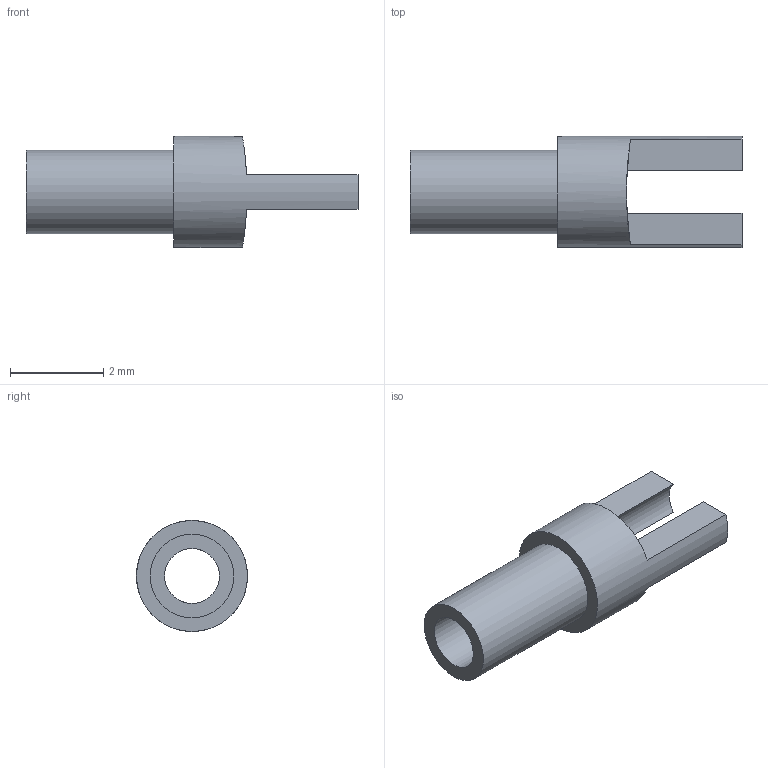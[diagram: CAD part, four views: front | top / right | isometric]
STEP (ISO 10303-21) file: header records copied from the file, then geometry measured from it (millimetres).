
FILE_DESCRIPTION(/* description */ (''),/* implementation_level */ '2;1');
FILE_NAME(/* name */ 'Z:\STEP folder\140-1941-03.ipt.stp',/* time_stamp */ '2016-12-07T10:40:06+00:00',/* author */ ('Paul Karlsons'),/* organization */ (''),/* preprocessor_version */ 'ST-DEVELOPER v15.2',/* originating_system */ 'Autodesk Inventor 2014',/* authorisation */ '');
FILE_SCHEMA (('AUTOMOTIVE_DESIGN { 1 0 10303 214 3 1 1 }'));
Length unit declared in the file: millimetre
Products named in the file (1): 140-1941-03
Bounding box: 7.14 x 2.39 x 2.39 mm (x, y, z)
Volume: 11.9 mm3; surface area: 67.6 mm2
Topology: 1 solids, 1 shells, 13 faces, 33 edges, 22 vertices
Faces by surface type: plane 8, cylinder 5
Full cylindrical faces by diameter (mm): 1.181 x1, 1.8 x1, 2.388 x1
Entity records: 443 total; most frequent: CARTESIAN_POINT 122, DIRECTION 64, ORIENTED_EDGE 56, EDGE_CURVE 28, AXIS2_PLACEMENT_3D 26, VERTEX_POINT 20, EDGE_LOOP 18, ADVANCED_FACE 13
